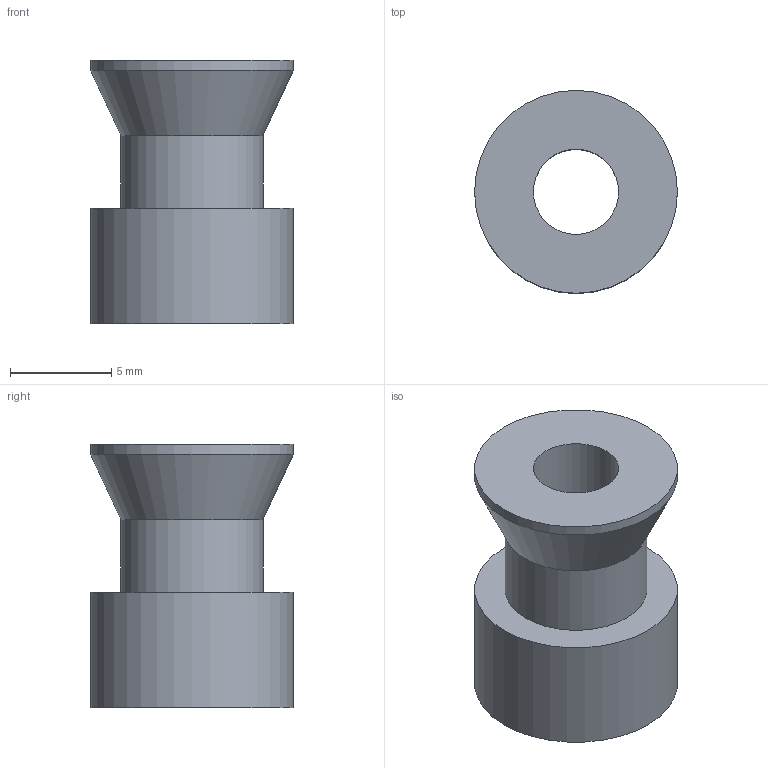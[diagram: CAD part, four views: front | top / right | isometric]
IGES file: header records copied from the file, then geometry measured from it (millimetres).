
Start section: Data from Parasolid IGES Translator 20.0.26, Copyright(c) 2006 Siemens P LM Software. All Rights Reserved.
Global section: file name: 9298848.igs; native system: By Siemens PLM Incorporated; preprocessor: XPlus GENERIC/IGES 20.0.26; author: Noname; organization: Noname; date: 20210830.170312; units: millimetre
Bounding box: 10 x 10 x 13 mm (x, y, z)
Surface area: 709.3 mm2 (no closed solid volume)
Topology: 0 solids, 0 shells, 8 faces, 28 edges, 20 vertices
Faces by surface type: revolution 5, extrusion 3
